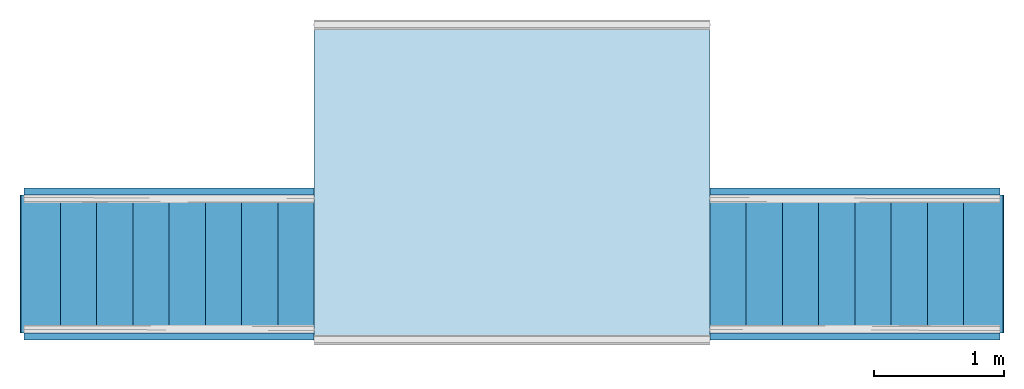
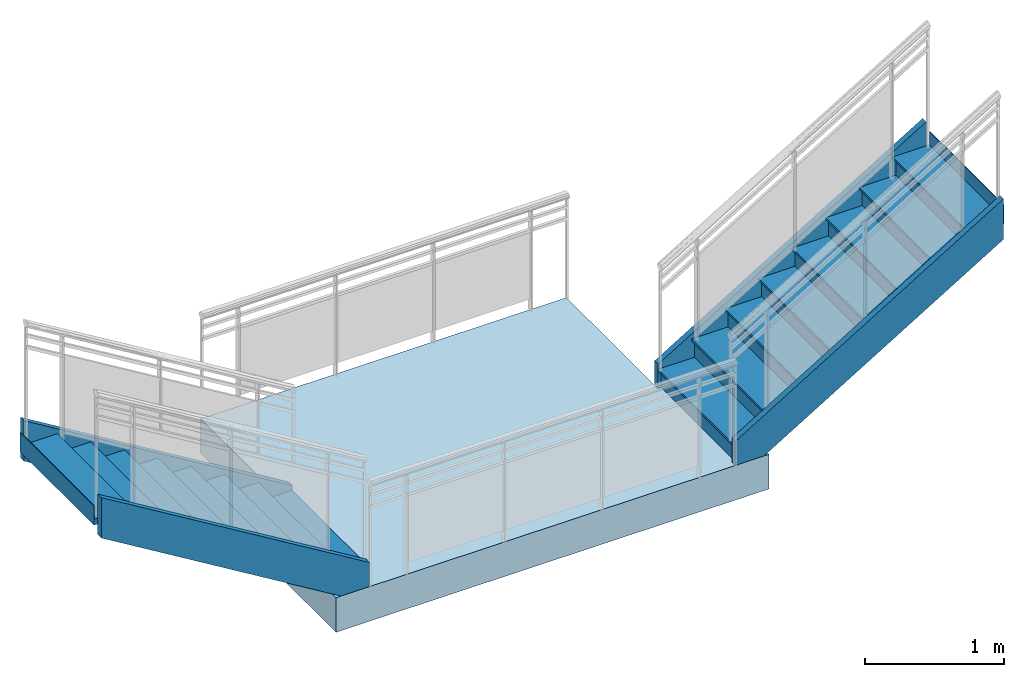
# One storey, part 1 of 4: 4 members, 2 stair flights, 1 slab, 1 element without a shape of its own.
"""IFC2X3 building model written with IfcOpenShell, lengths in feet."""

from ifc_helpers import new_model, entity, si_unit, converted_unit, derived_unit, direction, frame, frame_2d, origin, place, context, subcontext, project, spatial, polyline, rectangle, outline, extrude, material, layer, layer_set, layer_usage, type_object, element, aggregate, save


model = new_model("IFC2X3")

# Units and contexts
model_context = context("Model", 3, precision=0.0001, world=origin(), true_north=direction((6.12303176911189e-17, 1.0)))
body_context = subcontext(model_context, "Body", "Model", "MODEL_VIEW")
ifc_project = project(units=[converted_unit("LENGTHUNIT", "FOOT", entity("IfcRatioMeasure", 0.3048), si_unit("LENGTHUNIT", "METRE"), dimensions=[1, 0, 0, 0, 0, 0, 0]), converted_unit("AREAUNIT", "SQUARE FOOT", entity("IfcRatioMeasure", 0.09290304), si_unit("AREAUNIT", "SQUARE_METRE"), dimensions=[2, 0, 0, 0, 0, 0, 0]), converted_unit("VOLUMEUNIT", "CUBIC FOOT", entity("IfcRatioMeasure", 0.028316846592), si_unit("VOLUMEUNIT", "CUBIC_METRE"), dimensions=[3, 0, 0, 0, 0, 0, 0]), converted_unit("PLANEANGLEUNIT", "DEGREE", entity("IfcRatioMeasure", 0.0174532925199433), si_unit("PLANEANGLEUNIT", "RADIAN"), dimensions=[0, 0, 0, 0, 0, 0, 0]), si_unit("MASSUNIT", "GRAM", prefix="KILO"), derived_unit("MASSDENSITYUNIT", [(si_unit("MASSUNIT", "GRAM", prefix="KILO"), 1), (si_unit("LENGTHUNIT", "METRE"), -3)]), si_unit("TIMEUNIT", "SECOND"), si_unit("FREQUENCYUNIT", "HERTZ"), si_unit("THERMODYNAMICTEMPERATUREUNIT", "DEGREE_CELSIUS"), derived_unit("THERMALTRANSMITTANCEUNIT", [(si_unit("MASSUNIT", "GRAM", prefix="KILO"), 1), (si_unit("THERMODYNAMICTEMPERATUREUNIT", "KELVIN"), -1), (si_unit("TIMEUNIT", "SECOND"), -3)]), derived_unit("VOLUMETRICFLOWRATEUNIT", [(si_unit("LENGTHUNIT", "METRE"), 3), (si_unit("TIMEUNIT", "SECOND"), -1)]), si_unit("ELECTRICCURRENTUNIT", "AMPERE"), si_unit("ELECTRICVOLTAGEUNIT", "VOLT"), si_unit("POWERUNIT", "WATT"), si_unit("FORCEUNIT", "NEWTON"), si_unit("ILLUMINANCEUNIT", "LUX"), si_unit("LUMINOUSFLUXUNIT", "LUMEN"), si_unit("LUMINOUSINTENSITYUNIT", "CANDELA"), derived_unit("USERDEFINED", [(si_unit("MASSUNIT", "GRAM", prefix="KILO"), -1), (si_unit("LENGTHUNIT", "METRE"), -2), (si_unit("TIMEUNIT", "SECOND"), 3), (si_unit("LUMINOUSFLUXUNIT", "LUMEN"), 1)]), derived_unit("LINEARVELOCITYUNIT", [(si_unit("LENGTHUNIT", "METRE"), 1), (si_unit("TIMEUNIT", "SECOND"), -1)]), si_unit("PRESSUREUNIT", "PASCAL"), derived_unit("USERDEFINED", [(si_unit("LENGTHUNIT", "METRE"), -2), (si_unit("MASSUNIT", "GRAM", prefix="KILO"), 1), (si_unit("TIMEUNIT", "SECOND"), -2)])], contexts=[model_context])

# Site, building, storey
site_placement = place(None, origin())
site = spatial("IfcSite", under=ifc_project, at=site_placement, Name="Default", CompositionType="ELEMENT")
building_placement = place(site_placement, origin())
building = spatial("IfcBuilding", under=site, at=building_placement, CompositionType="ELEMENT")
storey_placement = place(building_placement, frame((0.0, 0.0, 5.0)))
storey = spatial("IfcBuildingStorey", under=building, at=storey_placement, Name="L 1", CompositionType="ELEMENT", Elevation=4.99999999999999)

# Stair, members
stair_placement = place(storey_placement, origin())
stair = element("IfcStair", 1, at=stair_placement, inside=storey, Name="Assembled Stair:Stair", ObjectType="Assembled Stair:7\" max riser 11\" tread", ShapeType="NOTDEFINED")
member_type = type_object("IfcMemberType", Name="Stringer:Stringer - 2\" Width", PredefinedType="STRINGER")
member_1_placement = place(stair_placement, origin())
member_1 = element("IfcMember", 2, at=member_1_placement, type_object=member_type, Name="Assembled Stair:Stair:189066 Stringer 1", ObjectType="Assembled Stair:7\" max riser 11\" tread", context=body_context, shape_type="SweptSolid", body=[
    extrude(outline(polyline([(-3.08955742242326, -1.96146201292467), (-2.30843697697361, -1.96146201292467), (4.24377591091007, 2.009576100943), (4.24377591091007, 3.1788961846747), (-3.08955742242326, -1.26554825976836), (-3.08955742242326, -1.96146201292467)])), frame((-42.0813868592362, -15.3369745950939, 1.96146201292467), z_axis=(0.0, 1.0, 0.0), x_axis=(-1.0, 0.0, 0.0)), (0.0, 0.0, 1.0), 0.166666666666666),
])
member_2_placement = place(stair_placement, origin())
member_2 = element("IfcMember", 3, at=member_2_placement, type_object=member_type, Name="Assembled Stair:Stair:189066 Stringer 2", ObjectType="Assembled Stair:7\" max riser 11\" tread", context=body_context, shape_type="SweptSolid", body=[
    extrude(outline(polyline([(-3.08955742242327, -1.96146201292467), (-2.30843697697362, -1.96146201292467), (4.24377591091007, 2.009576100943), (4.24377591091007, 3.1788961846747), (-3.08955742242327, -1.26554825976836), (-3.08955742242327, -1.96146201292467)])), frame((-42.0813868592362, -11.6703079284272, 1.96146201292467), z_axis=(0.0, 1.0, 0.0), x_axis=(-1.0, 0.0, 0.0)), (0.0, 0.0, 1.0), 0.166666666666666),
])
member_3_placement = place(stair_placement, origin())
member_3 = element("IfcMember", 4, at=member_3_placement, type_object=member_type, Name="Assembled Stair:Stair:189066 Stringer 3", ObjectType="Assembled Stair:7\" max riser 11\" tread", context=body_context, shape_type="SweptSolid", body=[
    extrude(outline(polyline([(-3.29811864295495, -0.519028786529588), (5.27689530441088, -0.519028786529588), (4.67083469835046, 0.480971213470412), (-2.99079942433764, 0.480971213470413), (-3.65881193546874, 0.0761151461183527), (-3.29811864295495, -0.519028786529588)])), frame((-25.9022720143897, -15.3369745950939, 1.96146201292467), z_axis=(0.0, 1.0, 0.0), x_axis=(0.855197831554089, 0.0, 0.518301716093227)), (0.0, 0.0, 1.0), 0.166666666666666),
])
member_4_placement = place(stair_placement, origin())
member_4 = element("IfcMember", 5, at=member_4_placement, type_object=member_type, Name="Assembled Stair:Stair:189066 Stringer 4", ObjectType="Assembled Stair:7\" max riser 11\" tread", context=body_context, shape_type="SweptSolid", body=[
    extrude(outline(polyline([(-3.29811864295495, -0.519028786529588), (5.27689530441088, -0.519028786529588), (4.67083469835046, 0.480971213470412), (-2.99079942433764, 0.480971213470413), (-3.65881193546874, 0.0761151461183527), (-3.29811864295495, -0.519028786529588)])), frame((-25.9022720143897, -11.6703079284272, 1.96146201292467), z_axis=(0.0, 1.0, 0.0), x_axis=(0.855197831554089, 0.0, 0.518301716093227)), (0.0, 0.0, 1.0), 0.166666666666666),
])

# Slab
ifc_material = material(Name="Concrete, Cast-in-Place gray")
ifc_layer = layer(ifc_material, 1.0)
ifc_layer_set = layer_set([ifc_layer], Name="Floor:Generic - 12\"")
ifc_layer_usage = layer_usage(ifc_layer_set, "AXIS3", "POSITIVE", 0.0)
slab_placement = place(storey_placement, origin())
element("IfcSlab", 6, at=slab_placement, inside=storey, material=ifc_layer_usage, Name="Floor:Generic - 12\"", ObjectType="Floor:Generic - 12\"", PredefinedType="FLOOR", context=body_context, shape_type="SweptSolid", body=[
    extrude(outline(polyline([(-3.91666666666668, -5.91666666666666), (-0.0833333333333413, -5.91666666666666), (-0.0833333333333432, -5.0), (4.08333333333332, -5.0), (4.08333333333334, 5.0), (-0.0833333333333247, 5.0), (-0.0833333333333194, 5.91666666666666), (-3.91666666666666, 5.91666666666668), (-3.91666666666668, -5.91666666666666)])), frame((-33.9918294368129, -11.4203079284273, 0.0), z_axis=(0.0, 0.0, -1.0), x_axis=(0.0, 1.0, 0.0)), (0.0, 0.0, 1.0), 1.0),
])

# Stair flight
stair_flight_1_placement = place(stair_placement, origin())
stair_flight_1 = element("IfcStairFlight", 7, at=stair_flight_1_placement, Name="Assembled Stair:Stair:189066 Run 1", ObjectType="Assembled Stair:7\" max riser 11\" tread", NumberOfRiser=9, NumberOfTreads=8, RiserHeight=0.555555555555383, TreadLength=0.916666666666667, context=body_context, shape_type="SweptSolid", body=[
    extrude(outline(polyline([(-0.0902777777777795, -0.361111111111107), (-0.0277777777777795, -0.361111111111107), (0.0555555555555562, -0.277777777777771), (0.0763888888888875, -0.277777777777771), (0.0763888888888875, 0.638888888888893), (-0.0902777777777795, 0.638888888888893), (-0.0902777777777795, -0.361111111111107)])), frame((-39.352940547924, -15.1703079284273, 0.465277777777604), z_axis=(0.0, 1.0, 0.0), x_axis=(0.0, 0.0, -1.0)), (0.0, 0.0, 1.0), 3.5),
    extrude(rectangle(XDim=3.5, YDim=0.0208333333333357, at=frame_2d((0.0, -3.5527136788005e-15), x_axis=(1.0, 0.0))), frame((-39.0855794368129, -13.4203079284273, 0.0), z_axis=(0.0, 0.0, 1.0), x_axis=(0.0, -1.0, 0.0)), (0.0, 0.0, 1.0), 0.388888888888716),
    extrude(rectangle(XDim=3.5, YDim=0.0208333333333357, at=frame_2d((0.0, 3.5527136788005e-15), x_axis=(1.0, 0.0))), frame((-40.0022461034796, -13.4203079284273, 0.388888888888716), z_axis=(0.0, 0.0, 1.0), x_axis=(0.0, -1.0, 0.0)), (0.0, 0.0, 1.0), 0.555555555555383),
    extrude(outline(polyline([(-0.0902777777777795, -0.361111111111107), (-0.0277777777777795, -0.361111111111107), (0.0555555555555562, -0.277777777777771), (0.0763888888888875, -0.277777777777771), (0.0763888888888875, 0.638888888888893), (-0.0902777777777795, 0.638888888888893), (-0.0902777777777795, -0.361111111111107)])), frame((-40.2696072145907, -15.1703079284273, 1.02083333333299), z_axis=(0.0, 1.0, 0.0), x_axis=(0.0, 0.0, -1.0)), (0.0, 0.0, 1.0), 3.5),
    extrude(rectangle(XDim=3.5, YDim=0.0208333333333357, at=frame_2d((0.0, -3.5527136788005e-15), x_axis=(1.0, 0.0))), frame((-40.9189127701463, -13.4203079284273, 0.944444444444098), z_axis=(0.0, 0.0, 1.0), x_axis=(0.0, -1.0, 0.0)), (0.0, 0.0, 1.0), 0.555555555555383),
    extrude(outline(polyline([(-0.0902777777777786, -0.361111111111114), (-0.0277777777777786, -0.361111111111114), (0.0555555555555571, -0.277777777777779), (0.0763888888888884, -0.277777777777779), (0.0763888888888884, 0.638888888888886), (-0.0902777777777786, 0.638888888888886), (-0.0902777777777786, -0.361111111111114)])), frame((-41.1862738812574, -15.1703079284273, 1.57638888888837), z_axis=(0.0, 1.0, 0.0), x_axis=(0.0, 0.0, -1.0)), (0.0, 0.0, 1.0), 3.5),
    extrude(rectangle(XDim=3.5, YDim=0.0208333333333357, at=frame_2d((0.0, -3.5527136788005e-15), x_axis=(1.0, 0.0))), frame((-41.8355794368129, -13.4203079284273, 1.49999999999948), z_axis=(0.0, 0.0, 1.0), x_axis=(0.0, -1.0, 0.0)), (0.0, 0.0, 1.0), 0.555555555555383),
    extrude(outline(polyline([(-0.0902777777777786, -0.361111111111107), (-0.0277777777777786, -0.361111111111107), (0.0555555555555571, -0.277777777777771), (0.0763888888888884, -0.277777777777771), (0.0763888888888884, 0.638888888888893), (-0.0902777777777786, 0.638888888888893), (-0.0902777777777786, -0.361111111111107)])), frame((-42.102940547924, -15.1703079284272, 2.13194444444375), z_axis=(0.0, 1.0, 0.0), x_axis=(0.0, 0.0, -1.0)), (0.0, 0.0, 1.0), 3.5),
    extrude(rectangle(XDim=3.5, YDim=0.0208333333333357, at=frame_2d((0.0, 3.5527136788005e-15), x_axis=(1.0, 0.0))), frame((-42.7522461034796, -13.4203079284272, 2.05555555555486), z_axis=(0.0, 0.0, 1.0), x_axis=(0.0, -1.0, 0.0)), (0.0, 0.0, 1.0), 0.555555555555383),
    extrude(outline(polyline([(-0.0902777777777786, -0.361111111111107), (-0.0277777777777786, -0.361111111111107), (0.0555555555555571, -0.277777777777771), (0.0763888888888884, -0.277777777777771), (0.0763888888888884, 0.638888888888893), (-0.0902777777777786, 0.638888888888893), (-0.0902777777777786, -0.361111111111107)])), frame((-43.0196072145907, -15.1703079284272, 2.68749999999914), z_axis=(0.0, 1.0, 0.0), x_axis=(0.0, 0.0, -1.0)), (0.0, 0.0, 1.0), 3.5),
    extrude(rectangle(XDim=3.5, YDim=0.0208333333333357, at=frame_2d((0.0, -3.5527136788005e-15), x_axis=(1.0, 0.0))), frame((-43.6689127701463, -13.4203079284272, 2.61111111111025), z_axis=(0.0, 0.0, 1.0), x_axis=(0.0, -1.0, 0.0)), (0.0, 0.0, 1.0), 0.555555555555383),
    extrude(outline(polyline([(-0.0902777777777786, -0.361111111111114), (-0.0277777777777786, -0.361111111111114), (0.0555555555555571, -0.277777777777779), (0.0763888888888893, -0.277777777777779), (0.0763888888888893, 0.638888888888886), (-0.0902777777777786, 0.638888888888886), (-0.0902777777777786, -0.361111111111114)])), frame((-43.9362738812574, -15.1703079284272, 3.24305555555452), z_axis=(0.0, 1.0, 0.0), x_axis=(0.0, 0.0, -1.0)), (0.0, 0.0, 1.0), 3.5),
    extrude(rectangle(XDim=3.5, YDim=0.0208333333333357, at=frame_2d((0.0, -3.5527136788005e-15), x_axis=(1.0, 0.0))), frame((-44.5855794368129, -13.4203079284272, 3.16666666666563), z_axis=(0.0, 0.0, 1.0), x_axis=(0.0, -1.0, 0.0)), (0.0, 0.0, 1.0), 0.555555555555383),
    extrude(outline(polyline([(-0.0902777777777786, -0.361111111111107), (-0.0277777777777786, -0.361111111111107), (0.0555555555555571, -0.277777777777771), (0.0763888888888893, -0.277777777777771), (0.0763888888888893, 0.638888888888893), (-0.0902777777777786, 0.638888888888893), (-0.0902777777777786, -0.361111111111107)])), frame((-44.852940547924, -15.1703079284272, 3.7986111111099), z_axis=(0.0, 1.0, 0.0), x_axis=(0.0, 0.0, -1.0)), (0.0, 0.0, 1.0), 3.5),
    extrude(rectangle(XDim=3.5, YDim=0.0208333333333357, at=frame_2d((0.0, 3.5527136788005e-15), x_axis=(1.0, 0.0))), frame((-45.5022461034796, -13.4203079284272, 3.72222222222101), z_axis=(0.0, 0.0, 1.0), x_axis=(0.0, -1.0, 0.0)), (0.0, 0.0, 1.0), 0.555555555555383),
    extrude(rectangle(XDim=3.5, YDim=0.0208333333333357, at=frame_2d((0.0, -3.5527136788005e-15), x_axis=(1.0, 0.0))), frame((-46.4189127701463, -13.4203079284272, 4.2777777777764), z_axis=(0.0, 0.0, 1.0), x_axis=(0.0, -1.0, 0.0)), (0.0, 0.0, 1.0), 0.555555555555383),
    extrude(outline(polyline([(-0.0902777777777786, -0.361111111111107), (-0.0277777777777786, -0.361111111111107), (0.0555555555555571, -0.277777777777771), (0.0763888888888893, -0.277777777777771), (0.0763888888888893, 0.638888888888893), (-0.0902777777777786, 0.638888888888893), (-0.0902777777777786, -0.361111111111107)])), frame((-45.7696072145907, -15.1703079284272, 4.35416666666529), z_axis=(0.0, 1.0, 0.0), x_axis=(0.0, 0.0, -1.0)), (0.0, 0.0, 1.0), 3.5),
])

stair_flight_2_placement = place(stair_placement, origin())
stair_flight_2 = element("IfcStairFlight", 8, at=stair_flight_2_placement, Name="Assembled Stair:Stair:189066 Run 2", ObjectType="Assembled Stair:7\" max riser 11\" tread", NumberOfRiser=9, NumberOfTreads=8, RiserHeight=0.555555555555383, TreadLength=0.916666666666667, context=body_context, shape_type="SweptSolid", body=[
    extrude(outline(polyline([(-0.0902777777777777, -0.638888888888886), (0.0763888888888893, -0.638888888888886), (0.0763888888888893, 0.277777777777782), (0.0555555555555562, 0.277777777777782), (-0.0277777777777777, 0.361111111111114), (-0.0902777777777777, 0.361111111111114), (-0.0902777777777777, -0.638888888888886)])), frame((-28.6307183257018, -15.1703079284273, 0.465277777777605), z_axis=(0.0, 1.0, 0.0), x_axis=(0.0, 0.0, -1.0)), (0.0, 0.0, 1.0), 3.5),
    extrude(rectangle(XDim=3.5, YDim=0.0208333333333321, at=frame_2d((0.0, 1.77635683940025e-15), x_axis=(1.0, 0.0))), frame((-28.8980794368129, -13.4203079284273, 0.0), z_axis=(0.0, 0.0, 1.0), x_axis=(0.0, 1.0, 0.0)), (0.0, 0.0, 1.0), 0.388888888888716),
    extrude(rectangle(XDim=3.5, YDim=0.0208333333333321, at=frame_2d((0.0, -1.77635683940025e-15), x_axis=(1.0, 0.0))), frame((-27.9814127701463, -13.4203079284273, 0.388888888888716), z_axis=(0.0, 0.0, 1.0), x_axis=(0.0, 1.0, 0.0)), (0.0, 0.0, 1.0), 0.555555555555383),
    extrude(outline(polyline([(-0.0902777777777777, -0.638888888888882), (0.0763888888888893, -0.638888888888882), (0.0763888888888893, 0.277777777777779), (0.0555555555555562, 0.277777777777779), (-0.0277777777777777, 0.361111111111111), (-0.0902777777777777, 0.361111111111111), (-0.0902777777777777, -0.638888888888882)])), frame((-27.7140516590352, -15.1703079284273, 1.02083333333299), z_axis=(0.0, 1.0, 0.0), x_axis=(0.0, 0.0, -1.0)), (0.0, 0.0, 1.0), 3.5),
    extrude(rectangle(XDim=3.5, YDim=0.0208333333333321, at=frame_2d((0.0, 1.77635683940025e-15), x_axis=(1.0, 0.0))), frame((-27.0647461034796, -13.4203079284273, 0.944444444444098), z_axis=(0.0, 0.0, 1.0), x_axis=(0.0, 1.0, 0.0)), (0.0, 0.0, 1.0), 0.555555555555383),
    extrude(outline(polyline([(-0.0902777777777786, -0.638888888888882), (0.0763888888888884, -0.638888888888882), (0.0763888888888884, 0.277777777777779), (0.0555555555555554, 0.277777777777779), (-0.0277777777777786, 0.361111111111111), (-0.0902777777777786, 0.361111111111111), (-0.0902777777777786, -0.638888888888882)])), frame((-26.7973849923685, -15.1703079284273, 1.57638888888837), z_axis=(0.0, 1.0, 0.0), x_axis=(0.0, 0.0, -1.0)), (0.0, 0.0, 1.0), 3.5),
    extrude(rectangle(XDim=3.5, YDim=0.0208333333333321, at=frame_2d((0.0, 1.77635683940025e-15), x_axis=(1.0, 0.0))), frame((-26.1480794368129, -13.4203079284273, 1.49999999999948), z_axis=(0.0, 0.0, 1.0), x_axis=(0.0, 1.0, 0.0)), (0.0, 0.0, 1.0), 0.555555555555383),
    extrude(outline(polyline([(-0.0902777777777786, -0.638888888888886), (0.0763888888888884, -0.638888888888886), (0.0763888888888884, 0.277777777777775), (0.0555555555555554, 0.277777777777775), (-0.0277777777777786, 0.361111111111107), (-0.0902777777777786, 0.361111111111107), (-0.0902777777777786, -0.638888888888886)])), frame((-25.8807183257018, -15.1703079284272, 2.13194444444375), z_axis=(0.0, 1.0, 0.0), x_axis=(0.0, 0.0, -1.0)), (0.0, 0.0, 1.0), 3.5),
    extrude(rectangle(XDim=3.5, YDim=0.0208333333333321, at=frame_2d((0.0, -1.77635683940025e-15), x_axis=(1.0, 0.0))), frame((-25.2314127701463, -13.4203079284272, 2.05555555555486), z_axis=(0.0, 0.0, 1.0), x_axis=(0.0, 1.0, 0.0)), (0.0, 0.0, 1.0), 0.555555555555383),
    extrude(outline(polyline([(-0.0902777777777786, -0.638888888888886), (0.0763888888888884, -0.638888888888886), (0.0763888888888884, 0.277777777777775), (0.0555555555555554, 0.277777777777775), (-0.0277777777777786, 0.361111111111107), (-0.0902777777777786, 0.361111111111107), (-0.0902777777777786, -0.638888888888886)])), frame((-24.9640516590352, -15.1703079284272, 2.68749999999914), z_axis=(0.0, 1.0, 0.0), x_axis=(0.0, 0.0, -1.0)), (0.0, 0.0, 1.0), 3.5),
    extrude(rectangle(XDim=3.5, YDim=0.0208333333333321, at=frame_2d((0.0, 1.77635683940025e-15), x_axis=(1.0, 0.0))), frame((-24.3147461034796, -13.4203079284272, 2.61111111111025), z_axis=(0.0, 0.0, 1.0), x_axis=(0.0, 1.0, 0.0)), (0.0, 0.0, 1.0), 0.555555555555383),
    extrude(outline(polyline([(-0.0902777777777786, -0.638888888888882), (0.0763888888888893, -0.638888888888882), (0.0763888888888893, 0.277777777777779), (0.0555555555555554, 0.277777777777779), (-0.0277777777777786, 0.361111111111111), (-0.0902777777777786, 0.361111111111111), (-0.0902777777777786, -0.638888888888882)])), frame((-24.0473849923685, -15.1703079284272, 3.24305555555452), z_axis=(0.0, 1.0, 0.0), x_axis=(0.0, 0.0, -1.0)), (0.0, 0.0, 1.0), 3.5),
    extrude(rectangle(XDim=3.5, YDim=0.0208333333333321, at=frame_2d((0.0, -1.77635683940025e-15), x_axis=(1.0, 0.0))), frame((-23.3980794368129, -13.4203079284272, 3.16666666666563), z_axis=(0.0, 0.0, 1.0), x_axis=(0.0, 1.0, 0.0)), (0.0, 0.0, 1.0), 0.555555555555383),
    extrude(outline(polyline([(-0.0902777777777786, -0.638888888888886), (0.0763888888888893, -0.638888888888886), (0.0763888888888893, 0.277777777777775), (0.0555555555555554, 0.277777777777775), (-0.0277777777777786, 0.361111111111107), (-0.0902777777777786, 0.361111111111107), (-0.0902777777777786, -0.638888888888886)])), frame((-23.1307183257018, -15.1703079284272, 3.7986111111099), z_axis=(0.0, 1.0, 0.0), x_axis=(0.0, 0.0, -1.0)), (0.0, 0.0, 1.0), 3.5),
    extrude(rectangle(XDim=3.5, YDim=0.0208333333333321, at=frame_2d((0.0, -1.77635683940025e-15), x_axis=(1.0, 0.0))), frame((-22.4814127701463, -13.4203079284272, 3.72222222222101), z_axis=(0.0, 0.0, 1.0), x_axis=(0.0, 1.0, 0.0)), (0.0, 0.0, 1.0), 0.555555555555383),
    extrude(rectangle(XDim=3.5, YDim=0.0208333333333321, at=frame_2d((0.0, 1.77635683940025e-15), x_axis=(1.0, 0.0))), frame((-21.5647461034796, -13.4203079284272, 4.2777777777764), z_axis=(0.0, 0.0, 1.0), x_axis=(0.0, 1.0, 0.0)), (0.0, 0.0, 1.0), 0.555555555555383),
    extrude(outline(polyline([(-0.0902777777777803, -0.638888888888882), (0.0763888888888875, -0.638888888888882), (0.0763888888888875, 0.277777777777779), (0.0555555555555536, 0.277777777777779), (-0.0277777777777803, 0.361111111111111), (-0.0902777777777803, 0.361111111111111), (-0.0902777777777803, -0.638888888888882)])), frame((-22.2140516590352, -15.1703079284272, 4.35416666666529), z_axis=(0.0, 1.0, 0.0), x_axis=(0.0, 0.0, -1.0)), (0.0, 0.0, 1.0), 3.5),
])

aggregate(stair, [stair_flight_1, stair_flight_2, member_1, member_2, member_3, member_4])

save(model, "model.ifc")
